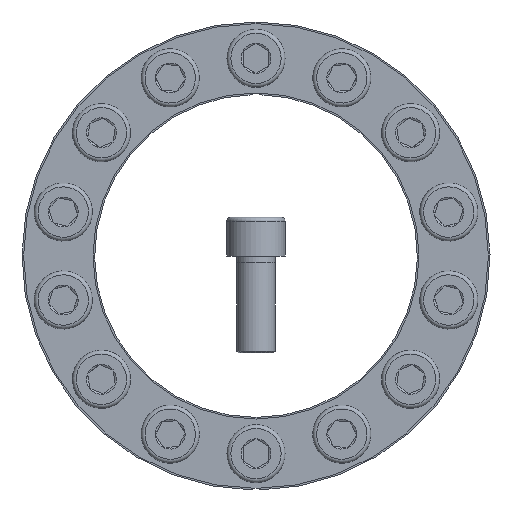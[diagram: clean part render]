
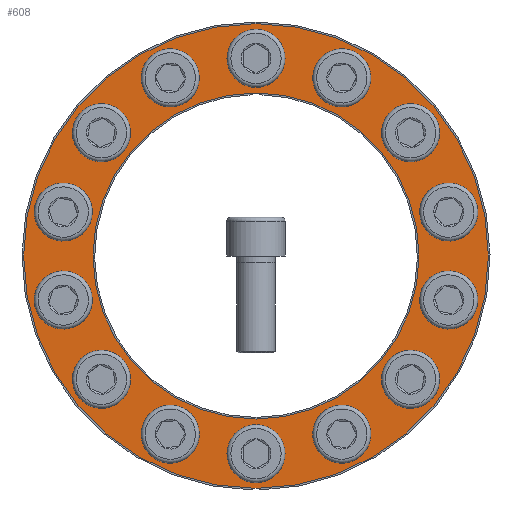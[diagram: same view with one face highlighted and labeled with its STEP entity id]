
A CAD part, front view. The second image highlights one B-rep face of the part: STEP entity #608.
In plain terms, the highlighted planar face has unit normal (0, -1, 0).
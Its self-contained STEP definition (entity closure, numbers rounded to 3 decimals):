
#608 = ADVANCED_FACE( '', ( #1164, #1165, #1166, #1167, #1168, #1169, #1170, #1171, #1172, #1173, #1174, #1175, #1176, #1177, #1178, #1179 ), #1180, .T. );
#1164 = FACE_BOUND( '', #2157, .T. );
#1165 = FACE_BOUND( '', #2158, .T. );
#1166 = FACE_BOUND( '', #2159, .T. );
#1167 = FACE_BOUND( '', #2160, .T. );
#1168 = FACE_BOUND( '', #2161, .T. );
#1169 = FACE_BOUND( '', #2162, .T. );
#1170 = FACE_BOUND( '', #2163, .T. );
#1171 = FACE_BOUND( '', #2164, .T. );
#1172 = FACE_BOUND( '', #2165, .T. );
#1173 = FACE_BOUND( '', #2166, .T. );
#1174 = FACE_BOUND( '', #2167, .T. );
#1175 = FACE_BOUND( '', #2168, .T. );
#1176 = FACE_BOUND( '', #2169, .T. );
#1177 = FACE_BOUND( '', #2170, .T. );
#1178 = FACE_BOUND( '', #2171, .T. );
#1179 = FACE_OUTER_BOUND( '', #2172, .T. );
#1180 = PLANE( '', #2173 );
#2157 = EDGE_LOOP( '', ( #3175 ) );
#2158 = EDGE_LOOP( '', ( #3176 ) );
#2159 = EDGE_LOOP( '', ( #3177 ) );
#2160 = EDGE_LOOP( '', ( #3178 ) );
#2161 = EDGE_LOOP( '', ( #3179 ) );
#2162 = EDGE_LOOP( '', ( #3180 ) );
#2163 = EDGE_LOOP( '', ( #3181 ) );
#2164 = EDGE_LOOP( '', ( #3182 ) );
#2165 = EDGE_LOOP( '', ( #3183 ) );
#2166 = EDGE_LOOP( '', ( #3184 ) );
#2167 = EDGE_LOOP( '', ( #3185 ) );
#2168 = EDGE_LOOP( '', ( #3186 ) );
#2169 = EDGE_LOOP( '', ( #3187 ) );
#2170 = EDGE_LOOP( '', ( #3188 ) );
#2171 = EDGE_LOOP( '', ( #3189 ) );
#2172 = EDGE_LOOP( '', ( #3190 ) );
#2173 = AXIS2_PLACEMENT_3D( '', #3191, #3192, #3193 );
#3175 = ORIENTED_EDGE( '', *, *, #5506, .T. );
#3176 = ORIENTED_EDGE( '', *, *, #5507, .T. );
#3177 = ORIENTED_EDGE( '', *, *, #5508, .T. );
#3178 = ORIENTED_EDGE( '', *, *, #5509, .T. );
#3179 = ORIENTED_EDGE( '', *, *, #5510, .T. );
#3180 = ORIENTED_EDGE( '', *, *, #5511, .T. );
#3181 = ORIENTED_EDGE( '', *, *, #5512, .T. );
#3182 = ORIENTED_EDGE( '', *, *, #5513, .T. );
#3183 = ORIENTED_EDGE( '', *, *, #5514, .T. );
#3184 = ORIENTED_EDGE( '', *, *, #5515, .T. );
#3185 = ORIENTED_EDGE( '', *, *, #5516, .T. );
#3186 = ORIENTED_EDGE( '', *, *, #5517, .T. );
#3187 = ORIENTED_EDGE( '', *, *, #5518, .T. );
#3188 = ORIENTED_EDGE( '', *, *, #5519, .T. );
#3189 = ORIENTED_EDGE( '', *, *, #5520, .F. );
#3190 = ORIENTED_EDGE( '', *, *, #5521, .T. );
#3191 = CARTESIAN_POINT( '', ( 0., -16.5, -72.5 ) );
#3192 = DIRECTION( '', ( 0., -1., 0. ) );
#3193 = DIRECTION( '', ( 0., 0., -1. ) );
#5506 = EDGE_CURVE( '', #6128, #6128, #6129, .T. );
#5507 = EDGE_CURVE( '', #6130, #6130, #6131, .T. );
#5508 = EDGE_CURVE( '', #6132, #6132, #6133, .T. );
#5509 = EDGE_CURVE( '', #6134, #6134, #6135, .T. );
#5510 = EDGE_CURVE( '', #6136, #6136, #6137, .T. );
#5511 = EDGE_CURVE( '', #6138, #6138, #6139, .T. );
#5512 = EDGE_CURVE( '', #6140, #6140, #6141, .T. );
#5513 = EDGE_CURVE( '', #6142, #6142, #6143, .T. );
#5514 = EDGE_CURVE( '', #6144, #6144, #6145, .T. );
#5515 = EDGE_CURVE( '', #6146, #6146, #6147, .T. );
#5516 = EDGE_CURVE( '', #6148, #6148, #6149, .T. );
#5517 = EDGE_CURVE( '', #6150, #6150, #6151, .T. );
#5518 = EDGE_CURVE( '', #6152, #6152, #6153, .T. );
#5519 = EDGE_CURVE( '', #6154, #6154, #6155, .T. );
#5520 = EDGE_CURVE( '', #6156, #6156, #6157, .T. );
#5521 = EDGE_CURVE( '', #6158, #6158, #6159, .T. );
#6128 = VERTEX_POINT( '', #7038 );
#6129 = CIRCLE( '', #7039, 6. );
#6130 = VERTEX_POINT( '', #7040 );
#6131 = CIRCLE( '', #7041, 6. );
#6132 = VERTEX_POINT( '', #7042 );
#6133 = CIRCLE( '', #7043, 6. );
#6134 = VERTEX_POINT( '', #7044 );
#6135 = CIRCLE( '', #7045, 6. );
#6136 = VERTEX_POINT( '', #7046 );
#6137 = CIRCLE( '', #7047, 6. );
#6138 = VERTEX_POINT( '', #7048 );
#6139 = CIRCLE( '', #7049, 6. );
#6140 = VERTEX_POINT( '', #7050 );
#6141 = CIRCLE( '', #7051, 6. );
#6142 = VERTEX_POINT( '', #7052 );
#6143 = CIRCLE( '', #7053, 6. );
#6144 = VERTEX_POINT( '', #7054 );
#6145 = CIRCLE( '', #7055, 6. );
#6146 = VERTEX_POINT( '', #7056 );
#6147 = CIRCLE( '', #7057, 6. );
#6148 = VERTEX_POINT( '', #7058 );
#6149 = CIRCLE( '', #7059, 6. );
#6150 = VERTEX_POINT( '', #7060 );
#6151 = CIRCLE( '', #7061, 6. );
#6152 = VERTEX_POINT( '', #7062 );
#6153 = CIRCLE( '', #7063, 6. );
#6154 = VERTEX_POINT( '', #7064 );
#6155 = CIRCLE( '', #7065, 6. );
#6156 = VERTEX_POINT( '', #7066 );
#6157 = CIRCLE( '', #7067, 50.5 );
#6158 = VERTEX_POINT( '', #7068 );
#6159 = CIRCLE( '', #7069, 72. );
#7038 = CARTESIAN_POINT( '', ( -26.575, -16.5, 49.184 ) );
#7039 = AXIS2_PLACEMENT_3D( '', #8758, #8759, #8760 );
#7040 = CARTESIAN_POINT( '', ( -47.887, -16.5, 32.189 ) );
#7041 = AXIS2_PLACEMENT_3D( '', #8761, #8762, #8763 );
#7042 = CARTESIAN_POINT( '', ( -59.714, -16.5, 7.629 ) );
#7043 = AXIS2_PLACEMENT_3D( '', #8764, #8765, #8766 );
#7044 = CARTESIAN_POINT( '', ( -59.714, -16.5, -19.629 ) );
#7045 = AXIS2_PLACEMENT_3D( '', #8767, #8768, #8769 );
#7046 = CARTESIAN_POINT( '', ( -47.887, -16.5, -44.189 ) );
#7047 = AXIS2_PLACEMENT_3D( '', #8770, #8771, #8772 );
#7048 = CARTESIAN_POINT( '', ( -26.575, -16.5, -61.184 ) );
#7049 = AXIS2_PLACEMENT_3D( '', #8773, #8774, #8775 );
#7050 = CARTESIAN_POINT( '', ( 0., -16.5, -67.25 ) );
#7051 = AXIS2_PLACEMENT_3D( '', #8776, #8777, #8778 );
#7052 = CARTESIAN_POINT( '', ( 26.575, -16.5, -61.184 ) );
#7053 = AXIS2_PLACEMENT_3D( '', #8779, #8780, #8781 );
#7054 = CARTESIAN_POINT( '', ( 47.887, -16.5, -44.189 ) );
#7055 = AXIS2_PLACEMENT_3D( '', #8782, #8783, #8784 );
#7056 = CARTESIAN_POINT( '', ( 65.714, -16.5, -13.629 ) );
#7057 = AXIS2_PLACEMENT_3D( '', #8785, #8786, #8787 );
#7058 = CARTESIAN_POINT( '', ( 65.714, -16.5, 13.629 ) );
#7059 = AXIS2_PLACEMENT_3D( '', #8788, #8789, #8790 );
#7060 = CARTESIAN_POINT( '', ( 47.887, -16.5, 32.189 ) );
#7061 = AXIS2_PLACEMENT_3D( '', #8791, #8792, #8793 );
#7062 = CARTESIAN_POINT( '', ( 26.575, -16.5, 49.184 ) );
#7063 = AXIS2_PLACEMENT_3D( '', #8794, #8795, #8796 );
#7064 = CARTESIAN_POINT( '', ( 0., -16.5, 55.25 ) );
#7065 = AXIS2_PLACEMENT_3D( '', #8797, #8798, #8799 );
#7066 = CARTESIAN_POINT( '', ( 0., -16.5, -50.5 ) );
#7067 = AXIS2_PLACEMENT_3D( '', #8800, #8801, #8802 );
#7068 = CARTESIAN_POINT( '', ( 0., -16.5, -72. ) );
#7069 = AXIS2_PLACEMENT_3D( '', #8803, #8804, #8805 );
#8758 = CARTESIAN_POINT( '', ( -26.575, -16.5, 55.184 ) );
#8759 = DIRECTION( '', ( 0., 1., 0. ) );
#8760 = DIRECTION( '', ( 0., 0., -1. ) );
#8761 = CARTESIAN_POINT( '', ( -47.887, -16.5, 38.189 ) );
#8762 = DIRECTION( '', ( 0., 1., 0. ) );
#8763 = DIRECTION( '', ( 0., 0., -1. ) );
#8764 = CARTESIAN_POINT( '', ( -59.714, -16.5, 13.629 ) );
#8765 = DIRECTION( '', ( 0., 1., 0. ) );
#8766 = DIRECTION( '', ( 0., 0., -1. ) );
#8767 = CARTESIAN_POINT( '', ( -59.714, -16.5, -13.629 ) );
#8768 = DIRECTION( '', ( 0., 1., 0. ) );
#8769 = DIRECTION( '', ( 0., 0., -1. ) );
#8770 = CARTESIAN_POINT( '', ( -47.887, -16.5, -38.189 ) );
#8771 = DIRECTION( '', ( 0., 1., 0. ) );
#8772 = DIRECTION( '', ( 0., 0., -1. ) );
#8773 = CARTESIAN_POINT( '', ( -26.575, -16.5, -55.184 ) );
#8774 = DIRECTION( '', ( 0., 1., 0. ) );
#8775 = DIRECTION( '', ( 0., 0., -1. ) );
#8776 = CARTESIAN_POINT( '', ( 0., -16.5, -61.25 ) );
#8777 = DIRECTION( '', ( 0., 1., 0. ) );
#8778 = DIRECTION( '', ( 0., 0., -1. ) );
#8779 = CARTESIAN_POINT( '', ( 26.575, -16.5, -55.184 ) );
#8780 = DIRECTION( '', ( 0., 1., 0. ) );
#8781 = DIRECTION( '', ( 0., 0., -1. ) );
#8782 = CARTESIAN_POINT( '', ( 47.887, -16.5, -38.189 ) );
#8783 = DIRECTION( '', ( 0., 1., 0. ) );
#8784 = DIRECTION( '', ( 0., 0., -1. ) );
#8785 = CARTESIAN_POINT( '', ( 59.714, -16.5, -13.629 ) );
#8786 = DIRECTION( '', ( 0., 1., 0. ) );
#8787 = DIRECTION( '', ( 1., 0., 0. ) );
#8788 = CARTESIAN_POINT( '', ( 59.714, -16.5, 13.629 ) );
#8789 = DIRECTION( '', ( 0., 1., 0. ) );
#8790 = DIRECTION( '', ( 1., 0., 0. ) );
#8791 = CARTESIAN_POINT( '', ( 47.887, -16.5, 38.189 ) );
#8792 = DIRECTION( '', ( 0., 1., 0. ) );
#8793 = DIRECTION( '', ( 0., 0., -1. ) );
#8794 = CARTESIAN_POINT( '', ( 26.575, -16.5, 55.184 ) );
#8795 = DIRECTION( '', ( 0., 1., 0. ) );
#8796 = DIRECTION( '', ( 0., 0., -1. ) );
#8797 = CARTESIAN_POINT( '', ( 0., -16.5, 61.25 ) );
#8798 = DIRECTION( '', ( 0., 1., 0. ) );
#8799 = DIRECTION( '', ( 0., 0., -1. ) );
#8800 = CARTESIAN_POINT( '', ( 0., -16.5, 0. ) );
#8801 = DIRECTION( '', ( 0., -1., 0. ) );
#8802 = DIRECTION( '', ( 0., 0., -1. ) );
#8803 = CARTESIAN_POINT( '', ( 0., -16.5, 0. ) );
#8804 = DIRECTION( '', ( 0., -1., 0. ) );
#8805 = DIRECTION( '', ( 0., 0., -1. ) );
